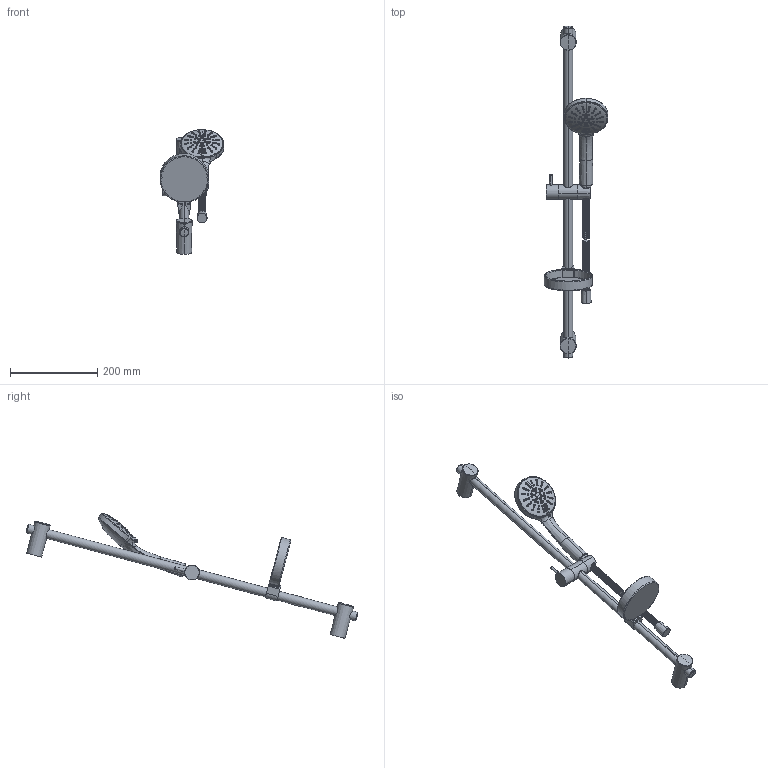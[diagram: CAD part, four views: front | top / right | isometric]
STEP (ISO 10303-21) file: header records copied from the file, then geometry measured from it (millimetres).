
FILE_DESCRIPTION((''),'2;1');
FILE_NAME('76675--','2026-09-24T10:31:25',('simi1'),(''),'CREO PARAMETRIC BY PTC INC, 2022244','CREO PARAMETRIC BY PTC INC, 2022244','');
FILE_SCHEMA(('CONFIG_CONTROL_DESIGN'));
Length unit declared in the file: millimetre
Products named in the file (1): 76675--
Bounding box: 146.49 x 760.53 x 286.01 mm (x, y, z)
Surface area: 213228.5 mm2 (no closed solid volume)
Topology: 0 solids, 98 shells, 750 faces, 2189 edges, 1503 vertices
Faces by surface type: torus 178, cylinder 159, bspline 147, cone 130, plane 113, sphere 14, revolution 9
Entity records: 54703 total; most frequent: CARTESIAN_POINT 36475, ORIENTED_EDGE 3810, DIRECTION 3539, EDGE_CURVE 2177, AXIS2_PLACEMENT_3D 1521, VERTEX_POINT 1503, CIRCLE 927, B_SPLINE_CURVE_WITH_KNOTS 771
